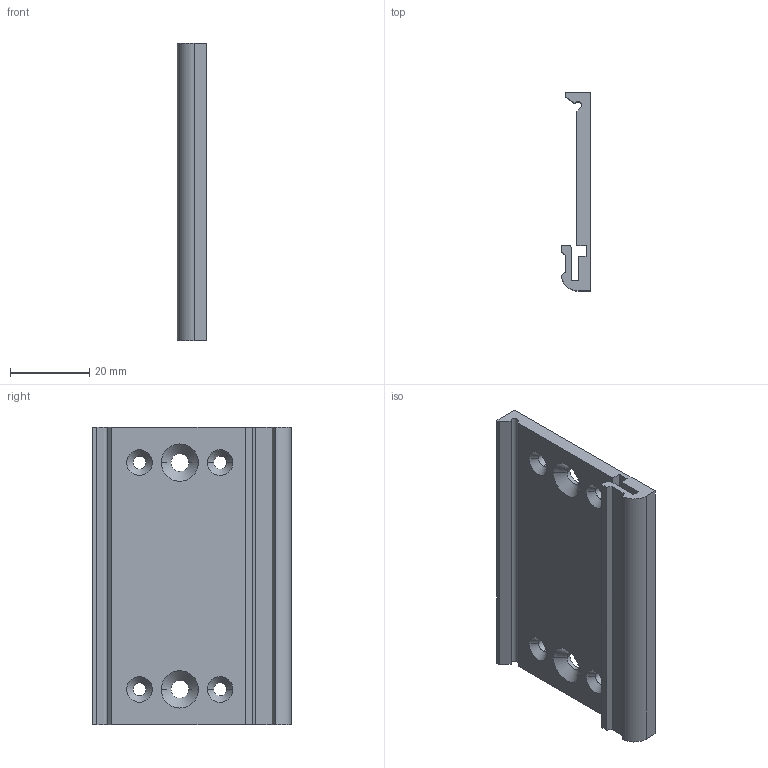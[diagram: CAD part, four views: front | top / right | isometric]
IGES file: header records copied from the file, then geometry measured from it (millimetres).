
Start section:  PTC IGES file: cu_din_rail_clip_daq.igs
Global section: file name: cu_din_rail_clip_daq.igs; native system: Pro/ENGINEER by Parametric Technology Corporation; preprocessor: 2006510; author: chrisj; organization: Unknown; date: 20100721.075028; units: inch
Bounding box: 7.49 x 50 x 75 mm (x, y, z)
Surface area: 11163.4 mm2 (no closed solid volume)
Topology: 0 solids, 0 shells, 48 faces, 268 edges, 268 vertices
Faces by surface type: revolution 27, bspline 21
